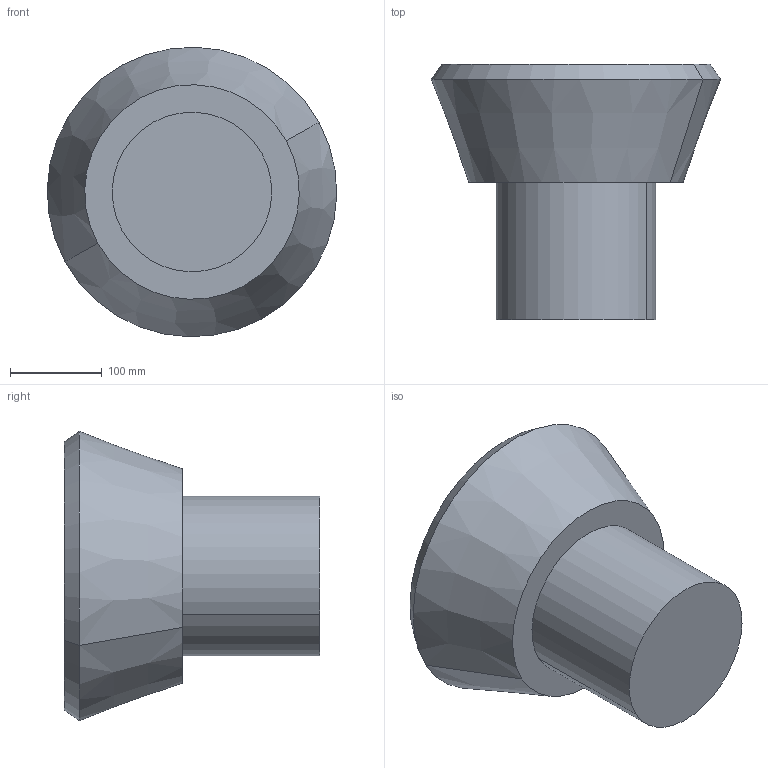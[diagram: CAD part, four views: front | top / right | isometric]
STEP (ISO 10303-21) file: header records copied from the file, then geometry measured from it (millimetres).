
FILE_DESCRIPTION(('CATIA V5 STEP Exchange'),'2;1');
FILE_NAME('C:\_Andres\UNIVERSIDAD\IQS\ASIGNATURAS\DAO\EXF\EXF-15161c\1original\Vallsmadella_Quintanilla_Ej09-optimiza_v27.stp','2016-03-04T21:55:31+00:00',('none'),('none'),'CATIA Version 5 Release 20 SP 1 (IN-10)','CATIA V5 STEP AP203','none');
FILE_SCHEMA(('CONFIG_CONTROL_DESIGN'));
Length unit declared in the file: millimetre
Products named in the file (1): Vallsmadella_Quintanilla_Ej09-optimiza_v27
Bounding box: 315.7 x 278.74 x 315.7 mm (x, y, z)
Volume: 11457569 mm3; surface area: 319131.3 mm2
Topology: 1 solids, 2 shells, 13 faces, 22 edges, 14 vertices
Faces by surface type: plane 5, cylinder 4, cone 4
Entity records: 324 total; most frequent: CARTESIAN_POINT 47, ORIENTED_EDGE 44, DIRECTION 42, AXIS2_PLACEMENT_3D 25, EDGE_CURVE 22, CIRCLE 14, EDGE_LOOP 14, VERTEX_POINT 14
